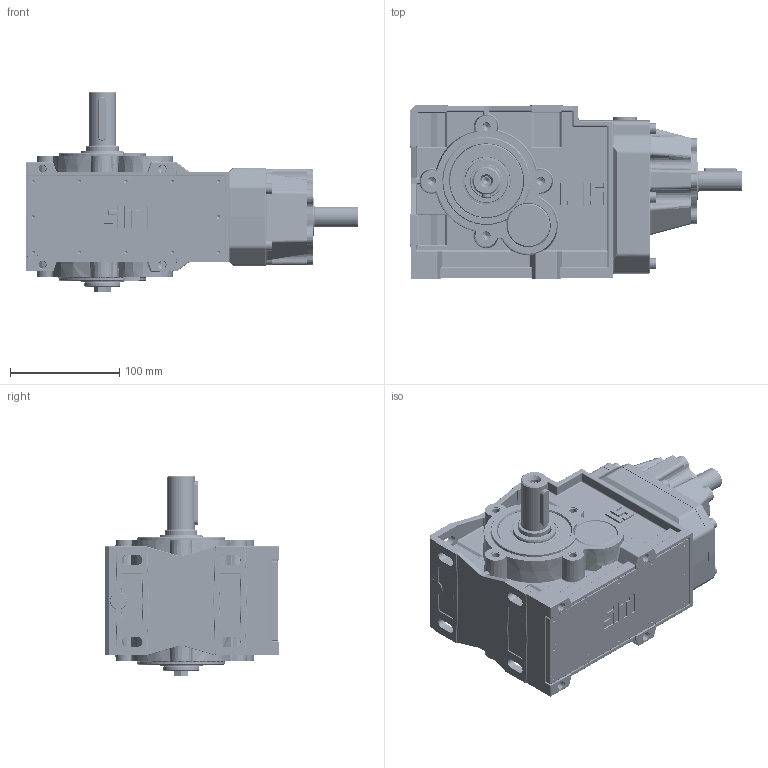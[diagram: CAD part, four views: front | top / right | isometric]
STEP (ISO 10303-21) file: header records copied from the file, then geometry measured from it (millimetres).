
FILE_DESCRIPTION((''),'2;1');
FILE_NAME('C:\Users\m.piscopiello.SITIRIDUTTORI\Desktop\3D x SITO\BH 56\BH_56 MS-A.stp','2013-04-19T12:11:20',('m.piscopiello'),(''),'Autodesk Inventor 2012','Autodesk Inventor 2012','');
FILE_SCHEMA(('CONFIG_CONTROL_DESIGN'));
Length unit declared in the file: millimetre
Products named in the file (1): BH_56 MS-A
Bounding box: 304.5 x 160 x 184.3 mm (x, y, z)
Volume: 1339992.4 mm3; surface area: 422628.9 mm2
Topology: 13 solids, 48 shells, 4224 faces, 10120 edges, 5875 vertices
Faces by surface type: cylinder 1383, plane 1089, bspline 792, torus 422, cone 355, sphere 183
Full cylindrical faces by diameter (mm): 3 x4, 3.242 x12, 4.2 x1, 4.3 x1, 4.917 x6, 5.3 x1, 6 x16, 6.647 x14, 7 x24, 8 x2, 8.4 x2, 8.7 x11, 9 x1, 10 x19, 11 x1, 19 x2, 19.4 x1, 19.97 x2, 23.5 x1, 25 x2, 30 x2, 33 x2, 34.4 x1, 35 x3, 36.875 x2, 39.4 x1, 40 x18, 42 x1, 42.5 x4, 43.75 x2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
Entity records: 139914 total; most frequent: CARTESIAN_POINT 44954, DIRECTION 18947, ORIENTED_EDGE 18336, EDGE_CURVE 9168, AXIS2_PLACEMENT_3D 7758, VERTEX_POINT 5620, EDGE_LOOP 4916, STYLED_ITEM 4227
